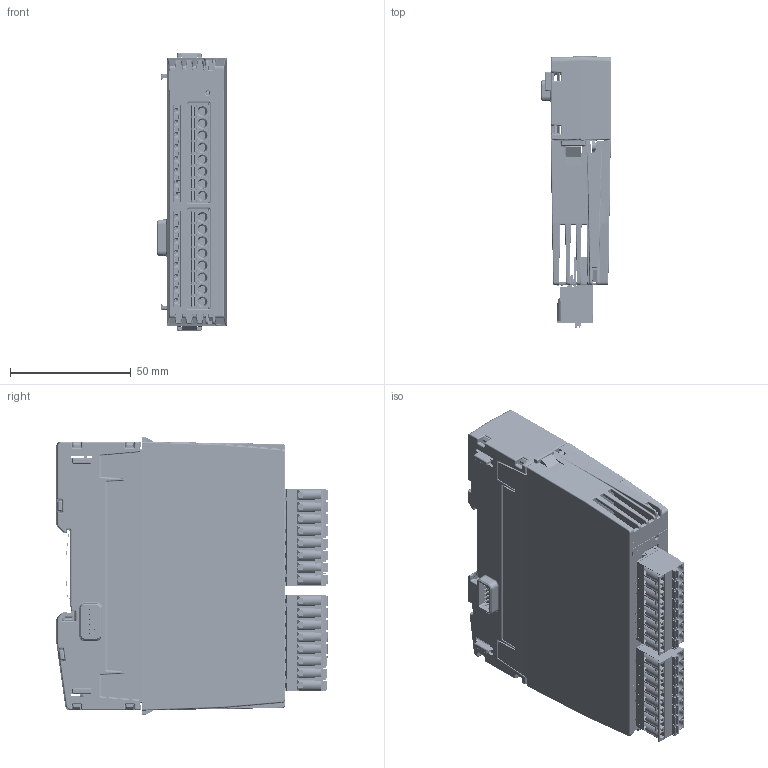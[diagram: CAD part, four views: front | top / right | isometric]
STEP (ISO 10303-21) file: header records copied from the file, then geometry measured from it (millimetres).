
FILE_DESCRIPTION(/* description */ (''),/* implementation_level */ '2;1');
FILE_NAME(/* name */ 'C:\Users\Public\Documents\Autodesk\Inventor 2023\DM08H_Simplified+BackBB21C.stp',/* time_stamp */ '2024-10-24T15:13:18+02:00',/* author */ ('asho'),/* organization */ (''),/* preprocessor_version */ 'ST-DEVELOPER v19',/* originating_system */ 'Autodesk Inventor 2023',/* authorisation */ '');
FILE_SCHEMA (('AUTOMOTIVE_DESIGN { 1 0 10303 214 3 1 1 }'));
Products named in the file (1): DM08H_Simplified+BackBB21C
Bounding box: 28.9 x 112.54 x 115.5 mm (x, y, z)
Volume: 143731.6 mm3; surface area: 91150.5 mm2
Topology: 8 solids, 10 shells, 8926 faces, 24819 edges, 15835 vertices
Faces by surface type: plane 5489, cylinder 2309, bspline 828, sphere 166, cone 97, torus 37
Full cylindrical faces by diameter (mm): 0.3 x148, 0.38 x2, 0.7 x36, 0.8 x6, 0.85 x24, 0.9 x8, 1.3 x24, 1.4 x4, 1.5 x16, 1.6 x2, 2.35 x2, 2.5 x1, 3 x17, 3.25 x2, 4 x16
Entity records: 359681 total; most frequent: CARTESIAN_POINT 121673, ORIENTED_EDGE 49316, DIRECTION 45642, EDGE_CURVE 24658, LINE 17504, VECTOR 17504, VERTEX_POINT 15835, AXIS2_PLACEMENT_3D 14069
